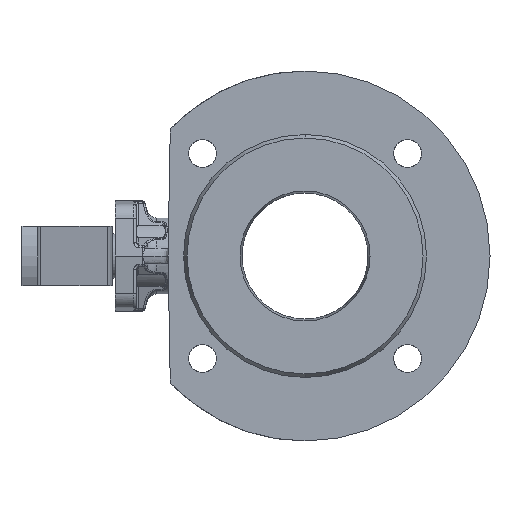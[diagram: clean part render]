
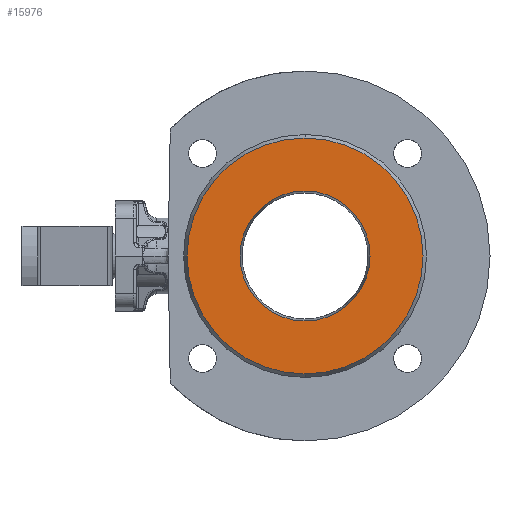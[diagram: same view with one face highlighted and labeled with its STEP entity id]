
A CAD part, left-side view. The second image highlights one B-rep face of the part: STEP entity #15976.
In plain terms, the highlighted planar face has unit normal (-1, 0, 0).
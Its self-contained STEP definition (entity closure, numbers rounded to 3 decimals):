
#20 = DIRECTION ( 'NONE',  ( 0., 0., -1. ) ) ;
#21 = DIRECTION ( 'NONE',  ( 1., 0., 0. ) ) ;
#22 = CARTESIAN_POINT ( 'NONE',  ( -50., 0., 0. ) ) ;
#23 = AXIS2_PLACEMENT_3D ( 'NONE', #22, #21, #20 ) ;
#52 = PLANE ( 'NONE',  #21020 ) ;
#53 = FACE_BOUND ( 'NONE', #15991, .T. ) ;
#54 = DIRECTION ( 'NONE',  ( 0., 0., 1. ) ) ;
#55 = DIRECTION ( 'NONE',  ( -1., 0., 0. ) ) ;
#56 = AXIS2_PLACEMENT_3D ( 'NONE', #63, #55, #54 ) ;
#57 = CIRCLE ( 'NONE', #56, 32.5 ) ;
#58 = FACE_OUTER_BOUND ( 'NONE', #15975, .T. ) ;
#63 = CARTESIAN_POINT ( 'NONE',  ( -50., 0., 0. ) ) ;
#2239 = CARTESIAN_POINT ( 'NONE',  ( -50., 0., 59. ) ) ;
#2332 = CARTESIAN_POINT ( 'NONE',  ( -50., 0., -59. ) ) ;
#2333 = DIRECTION ( 'NONE',  ( 0., 0., -1. ) ) ;
#2334 = DIRECTION ( 'NONE',  ( 1., 0., 0. ) ) ;
#2335 = CARTESIAN_POINT ( 'NONE',  ( -50., 0., 0. ) ) ;
#2336 = AXIS2_PLACEMENT_3D ( 'NONE', #2335, #2334, #2333 ) ;
#2337 = CIRCLE ( 'NONE', #2336, 59. ) ;
#9778 = CARTESIAN_POINT ( 'NONE',  ( -50., 0., 32.5 ) ) ;
#9779 = DIRECTION ( 'NONE',  ( 0., 0., 1. ) ) ;
#9780 = DIRECTION ( 'NONE',  ( -1., 0., 0. ) ) ;
#9781 = AXIS2_PLACEMENT_3D ( 'NONE', #9787, #9780, #9779 ) ;
#9782 = CIRCLE ( 'NONE', #9781, 32.5 ) ;
#9787 = CARTESIAN_POINT ( 'NONE',  ( -50., 0., 0. ) ) ;
#10129 = CARTESIAN_POINT ( 'NONE',  ( -50., 0., -32.5 ) ) ;
#15969 = ORIENTED_EDGE ( 'NONE', *, *, #17345, .F. ) ;
#15970 = ORIENTED_EDGE ( 'NONE', *, *, #15992, .F. ) ;
#15973 = EDGE_CURVE ( 'NONE', #17346, #17409, #57, .T. ) ;
#15974 = ORIENTED_EDGE ( 'NONE', *, *, #16684, .F. ) ;
#15975 = EDGE_LOOP ( 'NONE', ( #15974, #15970 ) ) ;
#15976 = ADVANCED_FACE ( 'NONE', ( #58, #53 ), #52, .F. ) ;
#15990 = ORIENTED_EDGE ( 'NONE', *, *, #15973, .F. ) ;
#15991 = EDGE_LOOP ( 'NONE', ( #15990, #15969 ) ) ;
#15992 = EDGE_CURVE ( 'NONE', #16679, #16685, #21005, .T. ) ;
#16679 = VERTEX_POINT ( 'NONE', #2239 ) ;
#16684 = EDGE_CURVE ( 'NONE', #16685, #16679, #2337, .T. ) ;
#16685 = VERTEX_POINT ( 'NONE', #2332 ) ;
#17345 = EDGE_CURVE ( 'NONE', #17409, #17346, #9782, .T. ) ;
#17346 = VERTEX_POINT ( 'NONE', #9778 ) ;
#17409 = VERTEX_POINT ( 'NONE', #10129 ) ;
#21005 = CIRCLE ( 'NONE', #23, 59. ) ;
#21017 = DIRECTION ( 'NONE',  ( 0., 0., -1. ) ) ;
#21018 = DIRECTION ( 'NONE',  ( 1., 0., 0. ) ) ;
#21019 = CARTESIAN_POINT ( 'NONE',  ( -50., 32.5, 0. ) ) ;
#21020 = AXIS2_PLACEMENT_3D ( 'NONE', #21019, #21018, #21017 ) ;
